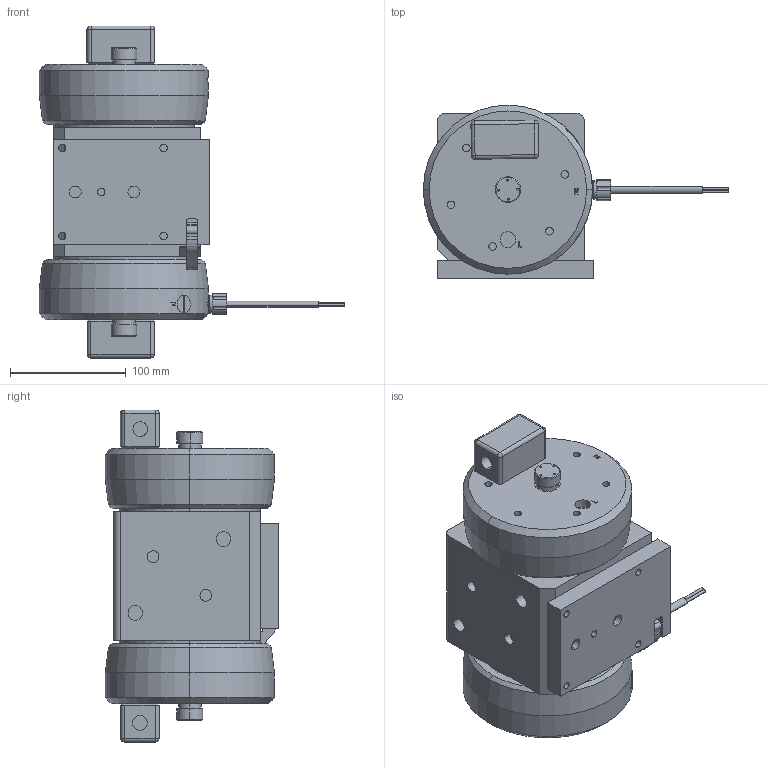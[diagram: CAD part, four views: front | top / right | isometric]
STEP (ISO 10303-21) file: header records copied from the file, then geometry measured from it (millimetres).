
FILE_DESCRIPTION (( 'STEP AP214' ), '1' );
FILE_NAME ('pfh-060-solid-model.STEP', '2012-11-21T22:17:12', ( '' ), ( '' ), 'SwSTEP 2.0', 'SolidWorks 2012', '' );
FILE_SCHEMA (( 'AUTOMOTIVE_DESIGN' ));
Length unit declared in the file: inch
Products named in the file (1): pfh-060-solid-model
Bounding box: 263.65 x 149.81 x 286.72 mm (x, y, z)
Volume: 4497158.3 mm3; surface area: 319516.6 mm2
Topology: 23 solids, 39 shells, 1382 faces, 3350 edges, 2185 vertices
Faces by surface type: plane 864, cylinder 300, bspline 115, cone 95, sphere 8
Entity records: 46774 total; most frequent: CARTESIAN_POINT 14007, ORIENTED_EDGE 6684, DIRECTION 6374, EDGE_CURVE 3342, VECTOR 2334, LINE 2334, VERTEX_POINT 2185, AXIS2_PLACEMENT_3D 2020
